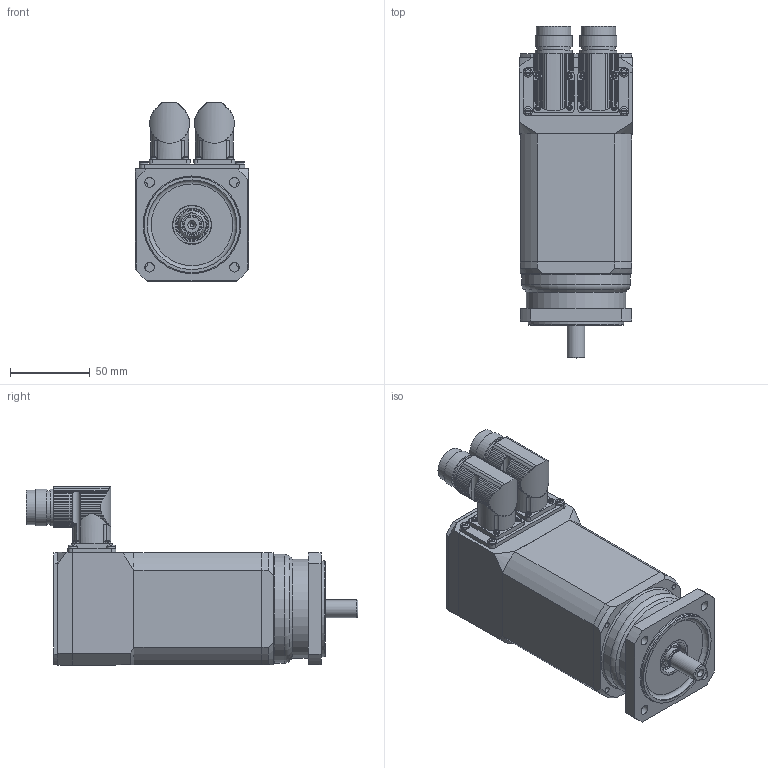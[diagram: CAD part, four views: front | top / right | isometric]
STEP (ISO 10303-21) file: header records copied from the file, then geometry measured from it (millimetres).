
FILE_DESCRIPTION(/* description */ (''),/* implementation_level */ '2;1');
FILE_NAME(/* name */ 'MR 7424-Ux-Nxxx-G01-A0D-M0',/* time_stamp */ '2007-07-13T09:50:00+01:00',/* author */ (''),/* organization */ ('ESR Pollmeier GmbH'),/* preprocessor_version */ 'ST-DEVELOPER v8',/* originating_system */ 'UNIGRAPHICS SOLUTIONS - UNIGRAPHICS 18.0',/* authorisation */ '');
FILE_SCHEMA (('AUTOMOTIVE_DESIGN { 1 2 10303 214 0 1 1 1 }'));
Length unit declared in the file: millimetre
Products named in the file (13): Gehaeuse_SY2_80_0; Rotor_SY2_0; iso2009-m3x8_A; 064214_2; 112062Z_0; iso1580-m3x10_A; din920-m2.5x6_A; 014257_0; 014250_0; DIN3760_org_A12x24x7_0; 064205Z_0; 112050Z_1; MR7424-Ux-Nxxx-G01-A0D-M0_neu_0
Assembly tree (25 placements, depth 2):
  MR7424-Ux-Nxxx-G01-A0D-M0_neu_0
    112050Z_1
    064205Z_0
    DIN3760_org_A12x24x7_0
    014250_0
    014257_0
    din920-m2.5x6_A  x8
    iso1580-m3x10_A  x4
    112062Z_0
    064214_2
    iso2009-m3x8_A  x4
    Rotor_SY2_0
    Gehaeuse_SY2_80_0
Bounding box: 70.75 x 207.4 x 111.74 mm (x, y, z)
Volume: 326650.3 mm3; surface area: 159704.9 mm2
Topology: 25 solids, 25 shells, 1044 faces, 2767 edges, 1801 vertices
Faces by surface type: cylinder 548, plane 292, cone 97, torus 49, bspline 34, sphere 24
Full cylindrical faces by diameter (mm): 1 x16, 2 x4, 2.135 x8, 2.387 x4, 2.4 x4, 2.459 x8, 2.5 x9, 2.7 x8, 3 x8, 3.3 x3, 3.432 x7, 3.5 x16, 6 x8, 6.5 x3, 8 x4, 10.6 x1, 11 x2, 12 x2, 12.3 x1, 14 x1, 15.02 x1, 18 x4, 20 x4, 21 x3, 21.5 x2, 22.5 x1, 23 x4, 24 x2, 26 x1, 32 x1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
Entity records: 28289 total; most frequent: CARTESIAN_POINT 7081, DIRECTION 4257, ORIENTED_EDGE 4116, EDGE_CURVE 2058, AXIS2_PLACEMENT_3D 1795, VERTEX_POINT 1463, EDGE_LOOP 1246, CIRCLE 901
